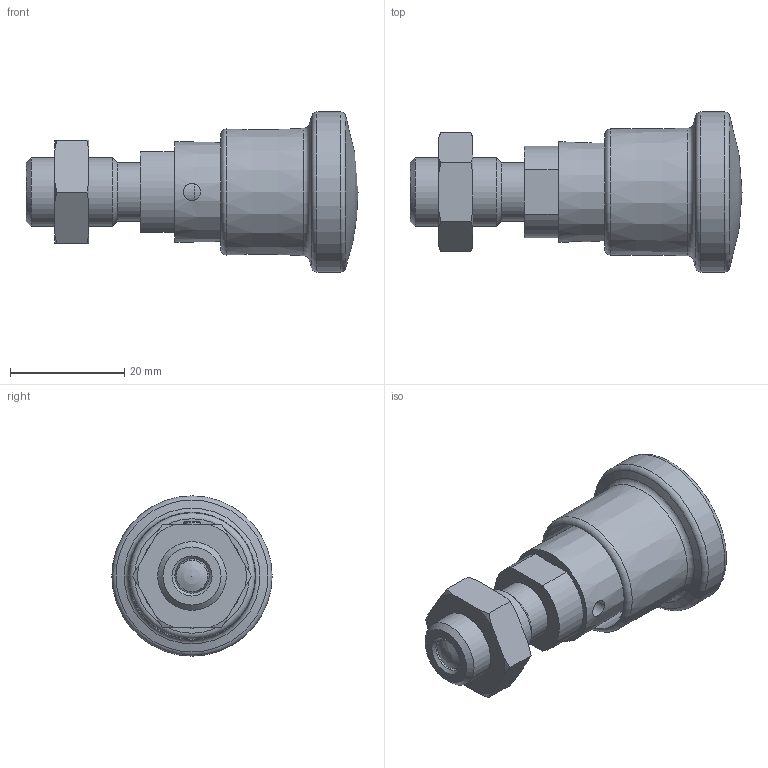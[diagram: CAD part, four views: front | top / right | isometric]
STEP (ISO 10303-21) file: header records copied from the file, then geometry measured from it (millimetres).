
FILE_DESCRIPTION( ( 'STEP AP203' ), '1' );
FILE_NAME( 'C:/Temp/Ganter_Step_05_03_2020/data/3_1/gn816/gn_816_ark/Locking plunger GN 816-6-M12x1,5-ARK (activated).stp', '2020-03-12T08:55:49', ( 'License CC BY-ND 4.0' ), ( 'CADENAS' ), ' ', 'PARTsolutions', ' ' );
FILE_SCHEMA( ( 'CONFIG_CONTROL_DESIGN' ) );
Length unit declared in the file: millimetre
Products named in the file (4): Locking plunger GN 816-6-M12x1,5-ARK (activated); _GN 816-6-M12x1,5-AR1-2; _GN 816-6-M12x1,5-AR (1)-1; _Lock nut ISO 8675 GN 816-6-M12x1,5-AK
Assembly tree (3 placements, depth 2):
  Locking plunger GN 816-6-M12x1,5-ARK (activated)
    _GN 816-6-M12x1,5-AR1-2
    _GN 816-6-M12x1,5-AR (1)-1
    _Lock nut ISO 8675 GN 816-6-M12x1,5-AK
Bounding box: 58 x 28 x 28 mm (x, y, z)
Volume: 12516.7 mm3; surface area: 9755 mm2
Topology: 3 solids, 3 shells, 77 faces, 168 edges, 105 vertices
Faces by surface type: cone 26, plane 25, cylinder 18, torus 6, sphere 2
Full cylindrical faces by diameter (mm): 2.9 x2, 3 x2, 5.9 x1, 6 x3, 10.2 x1, 10.376 x1, 11.1 x1, 12 x1, 14 x1, 18.2 x1, 20.017 x1, 28 x1
Entity records: 2313 total; most frequent: CARTESIAN_POINT 675, DIRECTION 318, ORIENTED_EDGE 244, AXIS2_PLACEMENT_3D 145, EDGE_LOOP 132, EDGE_CURVE 122, VERTEX_POINT 100, FACE_OUTER_BOUND 99
